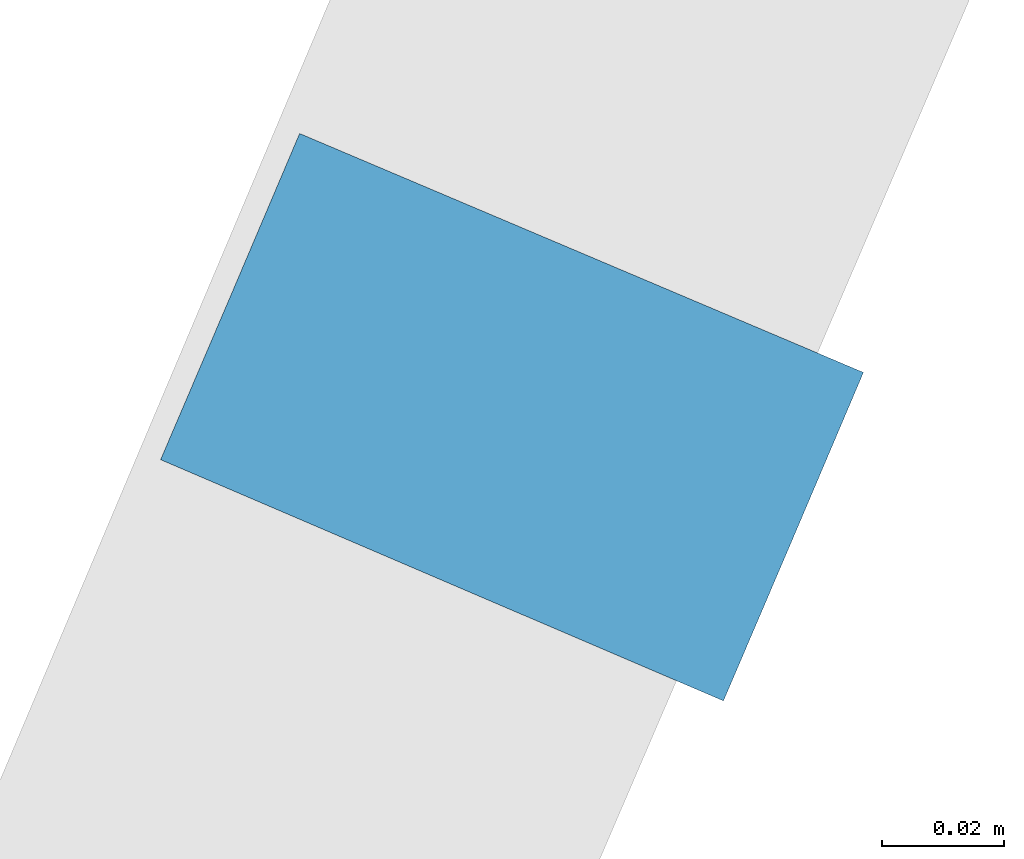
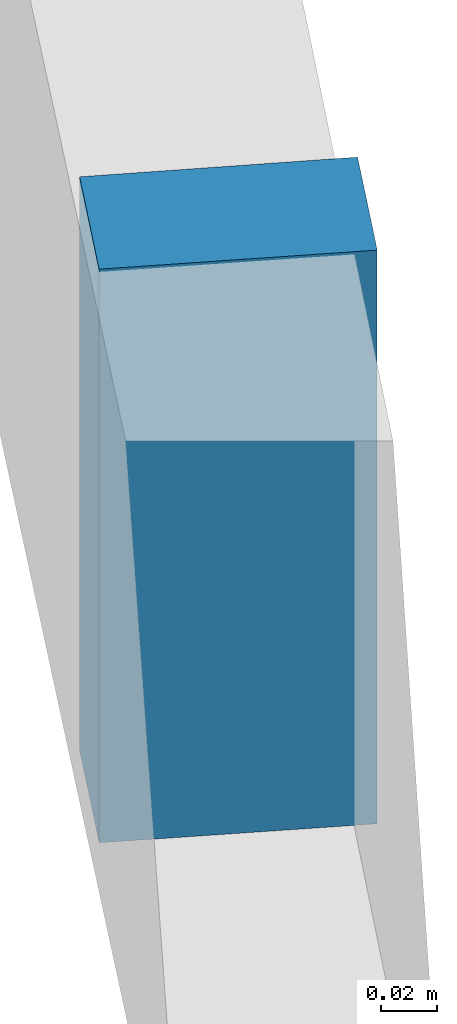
# One storey, part 119 of 157: 1 beam.
"""IFC2X3 building model written with IfcOpenShell, lengths in millimetres."""

from ifc_helpers import new_model, entity, si_unit, converted_unit, derived_unit, direction, frame, origin, place, context, subcontext, project, spatial, faceted_brep, material, type_object, element, save


model = new_model("IFC2X3")

# Units and contexts
model_context = context("Model", 3, precision=0.01, world=origin(), true_north=direction((6.123031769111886e-17, 1.0)))
body_context = subcontext(model_context, "Body", "Model", "MODEL_VIEW")
ifc_project = project(units=[si_unit("LENGTHUNIT", "METRE", prefix="MILLI"), si_unit("AREAUNIT", "SQUARE_METRE"), si_unit("VOLUMEUNIT", "CUBIC_METRE"), converted_unit("PLANEANGLEUNIT", "DEGREE", entity("IfcRatioMeasure", 0.017453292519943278), si_unit("PLANEANGLEUNIT", "RADIAN"), dimensions=[0, 0, 0, 0, 0, 0, 0]), si_unit("MASSUNIT", "GRAM", prefix="KILO"), derived_unit("MASSDENSITYUNIT", [(si_unit("MASSUNIT", "GRAM", prefix="KILO"), 1), (si_unit("LENGTHUNIT", "METRE"), -3)]), derived_unit("MOMENTOFINERTIAUNIT", [(si_unit("LENGTHUNIT", "METRE"), 4)]), si_unit("TIMEUNIT", "SECOND"), si_unit("FREQUENCYUNIT", "HERTZ"), si_unit("THERMODYNAMICTEMPERATUREUNIT", "DEGREE_CELSIUS"), derived_unit("THERMALTRANSMITTANCEUNIT", [(si_unit("MASSUNIT", "GRAM", prefix="KILO"), 1), (si_unit("THERMODYNAMICTEMPERATUREUNIT", "KELVIN"), -1), (si_unit("TIMEUNIT", "SECOND"), -3)]), derived_unit("THERMALCONDUCTANCEUNIT", [(si_unit("MASSUNIT", "GRAM", prefix="KILO"), 1), (si_unit("LENGTHUNIT", "METRE"), 1), (si_unit("THERMODYNAMICTEMPERATUREUNIT", "KELVIN"), -1), (si_unit("TIMEUNIT", "SECOND"), -3)]), derived_unit("VOLUMETRICFLOWRATEUNIT", [(si_unit("LENGTHUNIT", "METRE"), 3), (si_unit("TIMEUNIT", "SECOND"), -1)]), derived_unit("MASSFLOWRATEUNIT", [(si_unit("MASSUNIT", "GRAM", prefix="KILO"), 1), (si_unit("TIMEUNIT", "SECOND"), -1)]), derived_unit("ROTATIONALFREQUENCYUNIT", [(si_unit("TIMEUNIT", "SECOND"), -1)]), si_unit("ELECTRICCURRENTUNIT", "AMPERE"), si_unit("ELECTRICVOLTAGEUNIT", "VOLT"), si_unit("POWERUNIT", "WATT"), converted_unit("FORCEUNIT", "KIP", entity("IfcRatioMeasure", 2.088543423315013e-05), si_unit("FORCEUNIT", "NEWTON"), dimensions=[1, 1, -2, 0, 0, 0, 0]), si_unit("ILLUMINANCEUNIT", "LUX"), si_unit("LUMINOUSFLUXUNIT", "LUMEN"), si_unit("LUMINOUSINTENSITYUNIT", "CANDELA"), derived_unit("USERDEFINED", [(si_unit("MASSUNIT", "GRAM", prefix="KILO"), -1), (si_unit("LENGTHUNIT", "METRE"), -2), (si_unit("TIMEUNIT", "SECOND"), 3), (si_unit("LUMINOUSFLUXUNIT", "LUMEN"), 1)]), derived_unit("USERDEFINED", [(si_unit("MASSUNIT", "GRAM", prefix="KILO"), 1), (si_unit("LENGTHUNIT", "METRE"), 3), (si_unit("TIMEUNIT", "SECOND"), -3), (si_unit("ELECTRICCURRENTUNIT", "AMPERE"), -2)]), derived_unit("USERDEFINED", [(si_unit("LENGTHUNIT", "METRE"), 2), (si_unit("TIMEUNIT", "SECOND"), -2)]), derived_unit("SOUNDPOWERUNIT", [(si_unit("MASSUNIT", "GRAM", prefix="KILO"), 1), (si_unit("LENGTHUNIT", "METRE"), 2), (si_unit("TIMEUNIT", "SECOND"), -3)]), derived_unit("SOUNDPRESSUREUNIT", [(si_unit("MASSUNIT", "GRAM", prefix="KILO"), 1), (si_unit("LENGTHUNIT", "METRE"), -1), (si_unit("TIMEUNIT", "SECOND"), -2)]), derived_unit("LINEARVELOCITYUNIT", [(si_unit("LENGTHUNIT", "METRE"), 1), (si_unit("TIMEUNIT", "SECOND"), -1)]), si_unit("PRESSUREUNIT", "PASCAL"), derived_unit("USERDEFINED", [(si_unit("LENGTHUNIT", "METRE"), -2), (si_unit("MASSUNIT", "GRAM", prefix="KILO"), 1), (si_unit("TIMEUNIT", "SECOND"), -2)]), derived_unit("LINEARFORCEUNIT", [(si_unit("MASSUNIT", "GRAM", prefix="KILO"), 1), (si_unit("LENGTHUNIT", "METRE"), 1), (si_unit("TIMEUNIT", "SECOND"), -2), (si_unit("LENGTHUNIT", "METRE"), -1)]), derived_unit("PLANARFORCEUNIT", [(si_unit("MASSUNIT", "GRAM", prefix="KILO"), 1), (si_unit("LENGTHUNIT", "METRE"), 1), (si_unit("TIMEUNIT", "SECOND"), -2), (si_unit("LENGTHUNIT", "METRE"), -2)]), derived_unit("SPECIFICHEATCAPACITYUNIT", [(si_unit("LENGTHUNIT", "METRE"), 2), (si_unit("TIMEUNIT", "SECOND"), -2), (si_unit("THERMODYNAMICTEMPERATUREUNIT", "KELVIN"), -1)]), derived_unit("VAPORPERMEABILITYUNIT", [(si_unit("TIMEUNIT", "SECOND"), 1), (si_unit("LENGTHUNIT", "METRE"), -1)]), derived_unit("DYNAMICVISCOSITYUNIT", [(si_unit("MASSUNIT", "GRAM", prefix="KILO"), 1), (si_unit("LENGTHUNIT", "METRE"), -1), (si_unit("TIMEUNIT", "SECOND"), -1)]), derived_unit("THERMALEXPANSIONCOEFFICIENTUNIT", [(si_unit("THERMODYNAMICTEMPERATUREUNIT", "KELVIN"), -1)])], contexts=[model_context])

# Site, building, storey
site_placement = place(None, frame((0.0, 0.0, 0.0), z_axis=(0.0, 0.0, 1.0), x_axis=(0.8191520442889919, 0.5735764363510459, 0.0)))
site = spatial("IfcSite", under=ifc_project, at=site_placement, Name="Default", CompositionType="ELEMENT")
building_placement = place(site_placement, origin())
building = spatial("IfcBuilding", under=site, at=building_placement, CompositionType="ELEMENT")
storey_placement = place(building_placement, origin())
storey = spatial("IfcBuildingStorey", under=building, at=storey_placement, Name="1.EG +0.00", CompositionType="ELEMENT", Elevation=-4.331468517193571e-12)

# Beam
ifc_material = material(Name="Paveta_bordur")
beam_type = type_object("IfcBeamType", Name="Beam-140", PredefinedType="NOTDEFINED")
beam_placement = place(storey_placement, frame((3534.4059943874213, -138441.19813398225, 260.0)))
element("IfcBeam", 1, at=beam_placement, inside=storey, type_object=beam_type, material=ifc_material, Name="Beam-140:Beam-140", ObjectType="Beam-140:Beam-140", context=body_context, shape_type="Brep", body=[
    faceted_brep([(50.74861969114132, 117.19521043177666, 0.0), (50.74861969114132, 117.19521043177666, 250.0), (103.78583406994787, 32.41871669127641, 250.0), (103.78583406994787, 32.41871669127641, 0.0), (54.30370168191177, 1.5952722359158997, 0.0), (54.30370168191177, 1.5952722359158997, 250.0), (1.5952722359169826, 86.57657291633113, 250.0), (1.5952722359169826, 86.57657291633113, 0.0), (26.18677140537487, 101.86209178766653, 0.0), (26.18677140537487, 101.86209178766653, 250.0), (79.05969248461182, 16.983035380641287, 250.0), (79.05969248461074, 16.983035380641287, 0.0)], [[[0, 1, 2, 3]], [[4, 5, 6, 7]], [[0, 8, 9, 1]], [[7, 6, 9, 8]], [[2, 1, 9, 6, 5, 10]], [[2, 10, 11, 3]], [[10, 5, 4, 11]], [[8, 0, 3, 11, 4, 7]]]),
])

save(model, "model.ifc")
